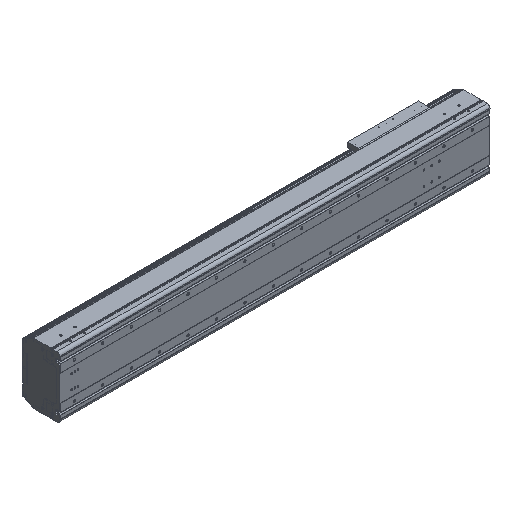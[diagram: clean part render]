
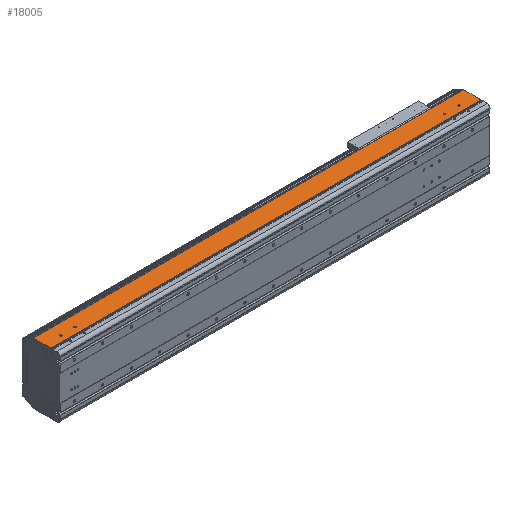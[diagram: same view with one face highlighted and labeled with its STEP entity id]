
A CAD part, isometric view. The second image highlights one B-rep face of the part: STEP entity #18005.
In plain terms, the highlighted planar face has unit normal (0, 0, 1).
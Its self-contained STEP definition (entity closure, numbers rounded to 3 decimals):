
#506=DIRECTION('',(0.,-1.,0.));
#507=VECTOR('',#506,2.55);
#508=CARTESIAN_POINT('',(0.,34.65,107.));
#509=LINE('',#508,#507);
#2129=DIRECTION('',(1.,0.,0.));
#2130=VECTOR('',#2129,2.);
#2131=CARTESIAN_POINT('',(0.,34.65,107.));
#2132=LINE('',#2131,#2130);
#2137=CARTESIAN_POINT('',(-54.5,54.,107.));
#2138=DIRECTION('',(0.,0.,-1.));
#2139=DIRECTION('',(1.,0.,0.));
#2140=AXIS2_PLACEMENT_3D('',#2137,#2138,#2139);
#2142=CARTESIAN_POINT('',(-54.5,54.,107.));
#2143=DIRECTION('',(0.,0.,-1.));
#2144=DIRECTION('',(-1.,0.,0.));
#2145=AXIS2_PLACEMENT_3D('',#2142,#2143,#2144);
#2147=CARTESIAN_POINT('',(-104.5,54.,107.));
#2148=DIRECTION('',(0.,0.,-1.));
#2149=DIRECTION('',(1.,0.,0.));
#2150=AXIS2_PLACEMENT_3D('',#2147,#2148,#2149);
#2152=CARTESIAN_POINT('',(-104.5,54.,107.));
#2153=DIRECTION('',(0.,0.,-1.));
#2154=DIRECTION('',(-1.,0.,0.));
#2155=AXIS2_PLACEMENT_3D('',#2152,#2153,#2154);
#2157=CARTESIAN_POINT('',(-1454.5,54.,107.));
#2158=DIRECTION('',(0.,0.,-1.));
#2159=DIRECTION('',(1.,0.,0.));
#2160=AXIS2_PLACEMENT_3D('',#2157,#2158,#2159);
#2162=CARTESIAN_POINT('',(-1454.5,54.,107.));
#2163=DIRECTION('',(0.,0.,-1.));
#2164=DIRECTION('',(-1.,0.,0.));
#2165=AXIS2_PLACEMENT_3D('',#2162,#2163,#2164);
#2167=CARTESIAN_POINT('',(-1404.5,54.,107.));
#2168=DIRECTION('',(0.,0.,-1.));
#2169=DIRECTION('',(1.,0.,0.));
#2170=AXIS2_PLACEMENT_3D('',#2167,#2168,#2169);
#2172=CARTESIAN_POINT('',(-1404.5,54.,107.));
#2173=DIRECTION('',(0.,0.,-1.));
#2174=DIRECTION('',(-1.,0.,0.));
#2175=AXIS2_PLACEMENT_3D('',#2172,#2173,#2174);
#2177=DIRECTION('',(0.,-1.,0.));
#2178=VECTOR('',#2177,2.55);
#2179=CARTESIAN_POINT('',(-1509.,34.65,107.));
#2180=LINE('',#2179,#2178);
#2181=DIRECTION('',(0.,-1.,0.));
#2182=VECTOR('',#2181,58.85);
#2183=CARTESIAN_POINT('',(-1511.,93.5,107.));
#2184=LINE('',#2183,#2182);
#2185=DIRECTION('',(0.,1.,0.));
#2186=VECTOR('',#2185,58.85);
#2187=CARTESIAN_POINT('',(2.,34.65,107.));
#2188=LINE('',#2187,#2186);
#2189=DIRECTION('',(1.,0.,0.));
#2190=VECTOR('',#2189,1509.);
#2191=CARTESIAN_POINT('',(-1509.,32.1,107.));
#2192=LINE('',#2191,#2190);
#2301=DIRECTION('',(1.,0.,0.));
#2302=VECTOR('',#2301,2.);
#2303=CARTESIAN_POINT('',(-1511.,34.65,107.));
#2304=LINE('',#2303,#2302);
#2313=DIRECTION('',(-1.,0.,0.));
#2314=VECTOR('',#2313,1513.);
#2315=CARTESIAN_POINT('',(2.,93.5,107.));
#2316=LINE('',#2315,#2314);
#12213=CARTESIAN_POINT('',(-1511.,34.65,107.));
#12214=VERTEX_POINT('',#12213);
#12215=CARTESIAN_POINT('',(-1511.,93.5,107.));
#12216=VERTEX_POINT('',#12215);
#12445=CARTESIAN_POINT('',(-1509.,32.1,107.));
#12446=VERTEX_POINT('',#12445);
#12984=CARTESIAN_POINT('',(0.,32.1,107.));
#12985=VERTEX_POINT('',#12984);
#12986=CARTESIAN_POINT('',(-52.,54.,107.));
#12987=CARTESIAN_POINT('',(-57.,54.,107.));
#12988=VERTEX_POINT('',#12986);
#12989=VERTEX_POINT('',#12987);
#12990=CARTESIAN_POINT('',(-102.,54.,107.));
#12991=CARTESIAN_POINT('',(-107.,54.,107.));
#12992=VERTEX_POINT('',#12990);
#12993=VERTEX_POINT('',#12991);
#12994=CARTESIAN_POINT('',(-1452.,54.,107.));
#12995=CARTESIAN_POINT('',(-1457.,54.,107.));
#12996=VERTEX_POINT('',#12994);
#12997=VERTEX_POINT('',#12995);
#12998=CARTESIAN_POINT('',(-1402.,54.,107.));
#12999=CARTESIAN_POINT('',(-1407.,54.,107.));
#13000=VERTEX_POINT('',#12998);
#13001=VERTEX_POINT('',#12999);
#14151=CARTESIAN_POINT('',(2.,34.65,107.));
#14152=VERTEX_POINT('',#14151);
#14153=CARTESIAN_POINT('',(2.,93.5,107.));
#14154=VERTEX_POINT('',#14153);
#14497=CARTESIAN_POINT('',(0.,34.65,107.));
#14498=VERTEX_POINT('',#14497);
#14685=CARTESIAN_POINT('',(-1509.,34.65,107.));
#14686=VERTEX_POINT('',#14685);
#17963=CARTESIAN_POINT('',(-754.5,62.8,107.));
#17964=DIRECTION('',(0.,0.,1.));
#17965=DIRECTION('',(0.,-1.,0.));
#17966=AXIS2_PLACEMENT_3D('',#17963,#17964,#17965);
#17967=PLANE('',#17966);
#17968=ORIENTED_EDGE('',*,*,#15431,.F.);
#17970=ORIENTED_EDGE('',*,*,#17969,.F.);
#17971=ORIENTED_EDGE('',*,*,#16530,.F.);
#17973=ORIENTED_EDGE('',*,*,#17972,.F.);
#17974=ORIENTED_EDGE('',*,*,#17761,.F.);
#17975=ORIENTED_EDGE('',*,*,#17956,.F.);
#17976=ORIENTED_EDGE('',*,*,#16047,.T.);
#17978=ORIENTED_EDGE('',*,*,#17977,.F.);
#17979=EDGE_LOOP('',(#17968,#17970,#17971,#17973,#17974,#17975,#17976,#17978));
#17980=FACE_OUTER_BOUND('',#17979,.F.);
#17982=ORIENTED_EDGE('',*,*,#17981,.F.);
#17984=ORIENTED_EDGE('',*,*,#17983,.F.);
#17985=EDGE_LOOP('',(#17982,#17984));
#17986=FACE_BOUND('',#17985,.F.);
#17988=ORIENTED_EDGE('',*,*,#17987,.F.);
#17990=ORIENTED_EDGE('',*,*,#17989,.F.);
#17991=EDGE_LOOP('',(#17988,#17990));
#17992=FACE_BOUND('',#17991,.F.);
#17994=ORIENTED_EDGE('',*,*,#17993,.F.);
#17996=ORIENTED_EDGE('',*,*,#17995,.F.);
#17997=EDGE_LOOP('',(#17994,#17996));
#17998=FACE_BOUND('',#17997,.F.);
#18000=ORIENTED_EDGE('',*,*,#17999,.F.);
#18002=ORIENTED_EDGE('',*,*,#18001,.F.);
#18003=EDGE_LOOP('',(#18000,#18002));
#18004=FACE_BOUND('',#18003,.F.);
#18005=ADVANCED_FACE('',(#17980,#17986,#17992,#17998,#18004),#17967,.T.);
#2141=CIRCLE('',#2140,2.5);
#2146=CIRCLE('',#2145,2.5);
#2151=CIRCLE('',#2150,2.5);
#2156=CIRCLE('',#2155,2.5);
#2161=CIRCLE('',#2160,2.5);
#2166=CIRCLE('',#2165,2.5);
#2171=CIRCLE('',#2170,2.5);
#2176=CIRCLE('',#2175,2.5);
#15431=EDGE_CURVE('',#14686,#12446,#2180,.T.);
#16047=EDGE_CURVE('',#14498,#12985,#509,.T.);
#16530=EDGE_CURVE('',#12216,#12214,#2184,.T.);
#17761=EDGE_CURVE('',#14152,#14154,#2188,.T.);
#17956=EDGE_CURVE('',#14498,#14152,#2132,.T.);
#17969=EDGE_CURVE('',#12214,#14686,#2304,.T.);
#17972=EDGE_CURVE('',#14154,#12216,#2316,.T.);
#17977=EDGE_CURVE('',#12446,#12985,#2192,.T.);
#17981=EDGE_CURVE('',#12992,#12993,#2151,.T.);
#17983=EDGE_CURVE('',#12993,#12992,#2156,.T.);
#17987=EDGE_CURVE('',#12996,#12997,#2161,.T.);
#17989=EDGE_CURVE('',#12997,#12996,#2166,.T.);
#17993=EDGE_CURVE('',#13000,#13001,#2171,.T.);
#17995=EDGE_CURVE('',#13001,#13000,#2176,.T.);
#17999=EDGE_CURVE('',#12988,#12989,#2141,.T.);
#18001=EDGE_CURVE('',#12989,#12988,#2146,.T.);
